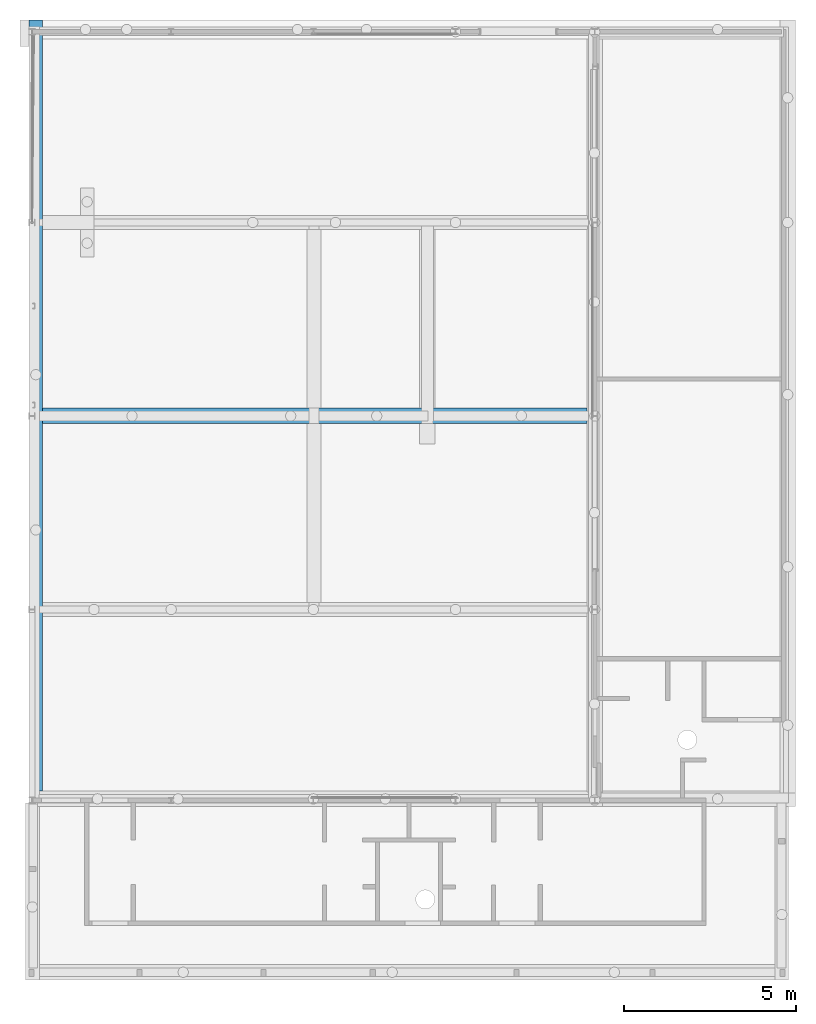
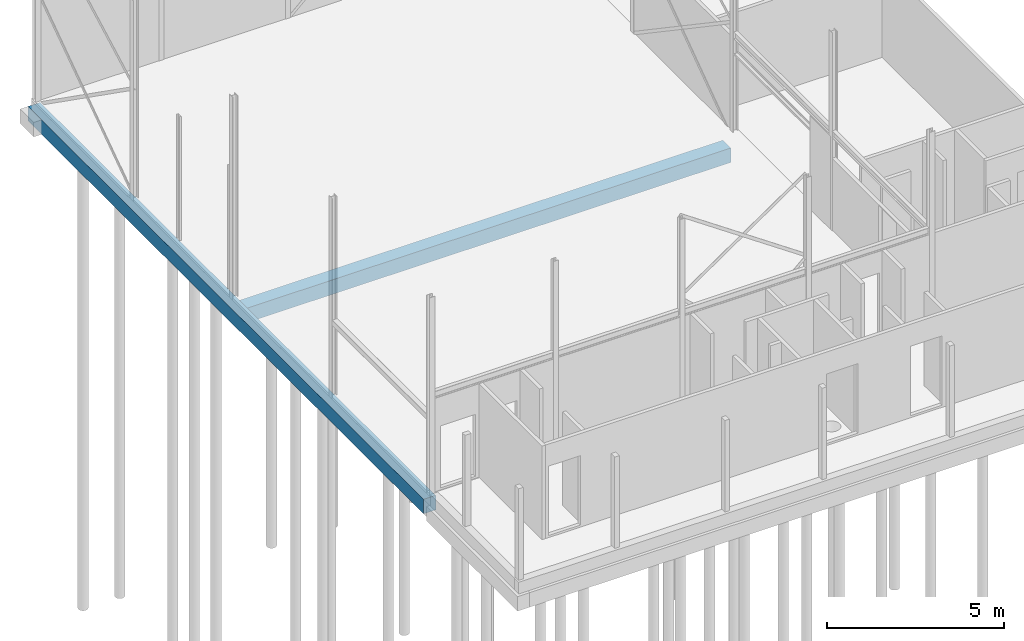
# One storey, part 14 of 17: 2 footings.
"""IFC2X3 building model written with IfcOpenShell, lengths in millimetres."""

from ifc_helpers import new_model, entity, si_unit, converted_unit, derived_unit, direction, frame, origin, place, context, subcontext, project, spatial, faceted_brep, source, transform, mapped, material, type_object, type_shapes, element, save


model = new_model("IFC2X3")

# Units and contexts
model_context = context("Model", 3, precision=0.01, world=origin(), true_north=direction((6.123031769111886e-17, 1.0)))
plan_context = context("Plan", 3, precision=0.01, world=origin(), true_north=direction((6.123031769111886e-17, 1.0)))
body_context = subcontext(model_context, "Body", "Model", "MODEL_VIEW")
ifc_project = project(units=[si_unit("LENGTHUNIT", "METRE", prefix="MILLI"), si_unit("AREAUNIT", "SQUARE_METRE"), si_unit("VOLUMEUNIT", "CUBIC_METRE"), converted_unit("PLANEANGLEUNIT", "DEGREE", entity("IfcPlaneAngleMeasure", 0.017453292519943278), si_unit("PLANEANGLEUNIT", "RADIAN"), dimensions=[0, 0, 0, 0, 0, 0, 0]), si_unit("MASSUNIT", "GRAM", prefix="KILO"), derived_unit("MASSDENSITYUNIT", [(si_unit("MASSUNIT", "GRAM", prefix="KILO"), 1), (si_unit("LENGTHUNIT", "METRE"), -3)]), derived_unit("IONCONCENTRATIONUNIT", [(si_unit("MASSUNIT", "GRAM", prefix="KILO"), 1), (si_unit("LENGTHUNIT", "METRE"), -3)]), derived_unit("MOMENTOFINERTIAUNIT", [(si_unit("LENGTHUNIT", "METRE"), 4)]), si_unit("TIMEUNIT", "SECOND"), si_unit("FREQUENCYUNIT", "HERTZ"), si_unit("THERMODYNAMICTEMPERATUREUNIT", "DEGREE_CELSIUS"), derived_unit("THERMALTRANSMITTANCEUNIT", [(si_unit("MASSUNIT", "GRAM", prefix="KILO"), 1), (si_unit("THERMODYNAMICTEMPERATUREUNIT", "KELVIN"), -1), (si_unit("TIMEUNIT", "SECOND"), -3)]), derived_unit("THERMALCONDUCTANCEUNIT", [(si_unit("MASSUNIT", "GRAM", prefix="KILO"), 1), (si_unit("THERMODYNAMICTEMPERATUREUNIT", "KELVIN"), -1), (si_unit("TIMEUNIT", "SECOND"), -3), (si_unit("LENGTHUNIT", "METRE"), 1)]), derived_unit("VOLUMETRICFLOWRATEUNIT", [(si_unit("LENGTHUNIT", "METRE", prefix="DECI"), 3), (si_unit("TIMEUNIT", "SECOND"), -1)]), derived_unit("MASSFLOWRATEUNIT", [(si_unit("MASSUNIT", "GRAM", prefix="KILO"), 1), (si_unit("TIMEUNIT", "SECOND"), -1)]), derived_unit("ROTATIONALFREQUENCYUNIT", [(si_unit("TIMEUNIT", "SECOND"), -1)]), si_unit("ELECTRICCURRENTUNIT", "AMPERE"), si_unit("ELECTRICVOLTAGEUNIT", "VOLT"), si_unit("POWERUNIT", "WATT"), si_unit("FORCEUNIT", "NEWTON", prefix="KILO"), si_unit("ILLUMINANCEUNIT", "LUX"), si_unit("LUMINOUSFLUXUNIT", "LUMEN"), si_unit("LUMINOUSINTENSITYUNIT", "CANDELA"), si_unit("ENERGYUNIT", "JOULE"), derived_unit("USERDEFINED", [(si_unit("MASSUNIT", "GRAM", prefix="KILO"), -1), (si_unit("LENGTHUNIT", "METRE"), -2), (si_unit("TIMEUNIT", "SECOND"), 3), (si_unit("LUMINOUSFLUXUNIT", "LUMEN"), 1)]), derived_unit("USERDEFINED", [(si_unit("MASSUNIT", "GRAM", prefix="KILO"), 1), (si_unit("TIMEUNIT", "SECOND"), -3), (si_unit("LENGTHUNIT", "METRE"), 3), (si_unit("ELECTRICCURRENTUNIT", "AMPERE"), -2)]), derived_unit("SOUNDPOWERUNIT", [(si_unit("MASSUNIT", "GRAM", prefix="KILO"), 1), (si_unit("TIMEUNIT", "SECOND"), -3), (si_unit("LENGTHUNIT", "METRE"), 2)]), derived_unit("SOUNDPRESSUREUNIT", [(si_unit("MASSUNIT", "GRAM", prefix="KILO"), 1), (si_unit("LENGTHUNIT", "METRE"), -1), (si_unit("TIMEUNIT", "SECOND"), -2)]), derived_unit("LINEARVELOCITYUNIT", [(si_unit("LENGTHUNIT", "METRE"), 1), (si_unit("TIMEUNIT", "SECOND"), -1)]), si_unit("PRESSUREUNIT", "PASCAL"), derived_unit("USERDEFINED", [(si_unit("MASSUNIT", "GRAM", prefix="KILO"), 1), (si_unit("LENGTHUNIT", "METRE"), -2), (si_unit("TIMEUNIT", "SECOND"), -2)]), derived_unit("LINEARFORCEUNIT", [(si_unit("MASSUNIT", "GRAM", prefix="KILO"), 1), (si_unit("TIMEUNIT", "SECOND"), -2)]), derived_unit("PLANARFORCEUNIT", [(si_unit("MASSUNIT", "GRAM", prefix="KILO"), 1), (si_unit("LENGTHUNIT", "METRE"), -1), (si_unit("TIMEUNIT", "SECOND"), -2)]), derived_unit("SPECIFICHEATCAPACITYUNIT", [(si_unit("THERMODYNAMICTEMPERATUREUNIT", "KELVIN"), -1), (si_unit("LENGTHUNIT", "METRE"), 2), (si_unit("TIMEUNIT", "SECOND"), -2)]), derived_unit("HEATFLUXDENSITYUNIT", [(si_unit("MASSUNIT", "GRAM", prefix="KILO"), 1), (si_unit("TIMEUNIT", "SECOND"), -3)]), derived_unit("HEATINGVALUEUNIT", [(si_unit("LENGTHUNIT", "METRE"), 2), (si_unit("TIMEUNIT", "SECOND"), -2)]), derived_unit("VAPORPERMEABILITYUNIT", [(si_unit("LENGTHUNIT", "METRE"), -1), (si_unit("TIMEUNIT", "SECOND"), 1)]), derived_unit("DYNAMICVISCOSITYUNIT", [(si_unit("MASSUNIT", "GRAM", prefix="KILO"), 1), (si_unit("TIMEUNIT", "SECOND"), -1), (si_unit("LENGTHUNIT", "METRE"), -1)]), derived_unit("THERMALEXPANSIONCOEFFICIENTUNIT", [(si_unit("THERMODYNAMICTEMPERATUREUNIT", "KELVIN"), -1)]), derived_unit("MODULUSOFELASTICITYUNIT", [(si_unit("MASSUNIT", "GRAM", prefix="KILO"), 1), (si_unit("LENGTHUNIT", "METRE"), -1), (si_unit("TIMEUNIT", "SECOND"), -2)]), derived_unit("ISOTHERMALMOISTURECAPACITYUNIT", [(si_unit("MASSUNIT", "GRAM", prefix="KILO"), -1), (si_unit("LENGTHUNIT", "METRE"), 3)]), derived_unit("MOISTUREDIFFUSIVITYUNIT", [(si_unit("TIMEUNIT", "SECOND"), -1), (si_unit("LENGTHUNIT", "METRE"), 2)]), derived_unit("MASSPERLENGTHUNIT", [(si_unit("MASSUNIT", "GRAM", prefix="KILO"), 1), (si_unit("LENGTHUNIT", "METRE"), -1)]), derived_unit("THERMALRESISTANCEUNIT", [(si_unit("MASSUNIT", "GRAM", prefix="KILO"), -1), (si_unit("TIMEUNIT", "SECOND"), 3), (si_unit("THERMODYNAMICTEMPERATUREUNIT", "KELVIN"), 1)]), derived_unit("ACCELERATIONUNIT", [(si_unit("LENGTHUNIT", "METRE"), 1), (si_unit("TIMEUNIT", "SECOND"), -2)]), derived_unit("ANGULARVELOCITYUNIT", [(si_unit("TIMEUNIT", "SECOND"), -1), (si_unit("PLANEANGLEUNIT", "RADIAN"), 1)]), derived_unit("LINEARSTIFFNESSUNIT", [(si_unit("MASSUNIT", "GRAM", prefix="KILO"), 1), (si_unit("TIMEUNIT", "SECOND"), -2)]), derived_unit("WARPINGCONSTANTUNIT", [(si_unit("LENGTHUNIT", "METRE"), 6)]), derived_unit("LINEARMOMENTUNIT", [(si_unit("MASSUNIT", "GRAM", prefix="KILO"), 1), (si_unit("LENGTHUNIT", "METRE"), 1), (si_unit("TIMEUNIT", "SECOND"), -2)]), derived_unit("TORQUEUNIT", [(si_unit("MASSUNIT", "GRAM", prefix="KILO"), 1), (si_unit("LENGTHUNIT", "METRE"), 2), (si_unit("TIMEUNIT", "SECOND"), -2)])], contexts=[model_context, plan_context])

# Site, building, storey
site_placement = place(None, origin())
site = spatial("IfcSite", under=ifc_project, at=site_placement, Name="Default", CompositionType="ELEMENT")
building_placement = place(site_placement, origin())
building = spatial("IfcBuilding", under=site, at=building_placement, CompositionType="ELEMENT")
storey_placement = place(building_placement, origin())
storey = spatial("IfcBuildingStorey", under=building, at=storey_placement, Name="00 begane grond", CompositionType="ELEMENT", Elevation=0.0)

# Footings
ifc_material = material(Name="ihwg beton")
type_product_1 = type_object("IfcTypeProduct", Name="16_SF_LIB_funderingsbalk_dw:400x500 (ihwg)", material=ifc_material)
shared_shape_1 = source(origin(), body_context, "Body", "Brep", [
    faceted_brep([(400.0, 0.0, 0.0), (0.0, 0.0, 0.0), (0.0, 0.0, -500.0), (400.0, 0.0, -500.0), (0.0, 22395.0, -500.0), (0.0, 22395.0, 0.0), (400.0, 22395.0, 0.0), (400.0, 22395.0, -500.0), (0.0, 21625.00004426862, 0.0), (400.0, 5075.0, 0.0), (400.0, 5475.0, 0.0), (400.0, 10670.0, 0.0), (400.0, 11120.0, 0.0), (400.0, 16315.0, 0.0), (400.0, 16715.0, 0.0), (400.0, 21845.0, 0.0), (0.0, 22199.499832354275, 0.0), (400.0, 5075.0, -500.0), (400.0, 5475.0, -500.0), (400.0, 10670.0, -500.0), (400.0, 11120.0, -500.0), (400.0, 16315.0, -500.0), (400.0, 16715.0, -500.0), (400.0, 21845.0, -500.0), (329.9038105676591, 7510.0, -500.0), (344.88887394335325, 7546.177143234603, -500.0), (350.0, 7585.0, -500.0), (306.0660171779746, 7478.933982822, -500.0), (275.0, 7455.096189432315, -500.0), (238.8228567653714, 7440.111126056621, -500.0), (200.0, 7435.0, -500.0), (161.17714323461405, 7440.111126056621, -500.0), (125.0, 7455.096189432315, -500.0), (93.93398282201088, 7478.933982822, -500.0), (70.09618943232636, 7510.0, -500.0), (55.1111260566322, 7546.177143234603, -500.0), (50.0, 7585.0, -500.0), (50.0, 12095.0, -500.0), (0.0, 21625.00004426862, -500.0), (55.11112605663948, 12133.82285676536, -500.0), (70.09618943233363, 12170.0, -500.0), (93.93398282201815, 12201.066017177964, -500.0), (125.0, 12224.903810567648, -500.0), (161.17714323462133, 12239.888873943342, -500.0), (200.0, 12245.0, -500.0), (238.82285676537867, 12239.888873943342, -500.0), (275.0, 12224.903810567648, -500.0), (306.06601717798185, 12201.066017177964, -500.0), (329.90381056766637, 12170.0, -500.0), (344.8888739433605, 12133.82285676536, -500.0), (350.0, 12095.0, -500.0), (70.09618943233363, 12020.0, -500.0), (344.8888739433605, 12056.177143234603, -500.0), (329.90381056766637, 12020.0, -500.0), (306.06601717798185, 11988.933982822, -500.0), (275.0, 11965.096189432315, -500.0), (238.82285676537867, 11950.111126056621, -500.0), (200.0, 11945.0, -500.0), (161.17714323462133, 11950.111126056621, -500.0), (125.0, 11965.096189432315, -500.0), (93.93398282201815, 11988.933982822, -500.0), (55.1111260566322, 7623.8228567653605, -500.0), (55.11112605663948, 12056.177143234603, -500.0), (344.88887394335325, 7623.8228567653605, -500.0), (329.9038105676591, 7660.0, -500.0), (306.0660171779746, 7691.066017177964, -500.0), (275.0, 7714.9038105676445, -500.0), (238.8228567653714, 7729.888873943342, -500.0), (200.0, 7735.0, -500.0), (161.17714323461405, 7729.888873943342, -500.0), (125.0, 7714.9038105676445, -500.0), (93.93398282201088, 7691.066017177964, -500.0), (70.09618943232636, 7660.0, -500.0), (275.0, 11965.096189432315, -480.0), (238.82285676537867, 11950.111126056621, -480.0), (200.0, 11945.0, -480.0), (161.17714323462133, 11950.111126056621, -480.0), (125.0, 11965.096189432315, -480.0), (93.93398282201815, 11988.933982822, -480.0), (70.09618943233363, 12020.0, -480.0), (55.11112605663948, 12056.177143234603, -480.0), (50.0, 12095.0, -480.0), (55.11112605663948, 12133.82285676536, -480.0), (70.09618943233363, 12170.0, -480.0), (93.93398282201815, 12201.066017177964, -480.0), (125.0, 12224.903810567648, -480.0), (161.17714323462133, 12239.888873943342, -480.0), (200.0, 12245.0, -480.0), (238.82285676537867, 12239.888873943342, -480.0), (275.0, 12224.903810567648, -480.0), (306.06601717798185, 12201.066017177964, -480.0), (329.90381056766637, 12170.0, -480.0), (344.8888739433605, 12133.82285676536, -480.0), (350.0, 12095.0, -480.0), (344.8888739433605, 12056.177143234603, -480.0), (329.90381056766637, 12020.0, -480.0), (306.06601717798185, 11988.933982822, -480.0), (275.0, 7455.096189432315, -480.0), (238.8228567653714, 7440.111126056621, -480.0), (200.0, 7435.0, -480.0), (161.17714323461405, 7440.111126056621, -480.0), (125.0, 7455.096189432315, -480.0), (93.93398282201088, 7478.933982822, -480.0), (70.09618943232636, 7510.0, -480.0), (55.1111260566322, 7546.177143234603, -480.0), (50.0, 7585.0, -480.0), (55.1111260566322, 7623.8228567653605, -480.0), (70.09618943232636, 7660.0, -480.0), (93.93398282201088, 7691.066017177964, -480.0), (125.0, 7714.9038105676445, -480.0), (161.17714323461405, 7729.888873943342, -480.0), (200.0, 7735.0, -480.0), (238.8228567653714, 7729.888873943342, -480.0), (275.0, 7714.9038105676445, -480.0), (306.0660171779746, 7691.066017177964, -480.0), (329.9038105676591, 7660.0, -480.0), (344.88887394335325, 7623.8228567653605, -480.0), (350.0, 7585.0, -480.0), (344.88887394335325, 7546.177143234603, -480.0), (329.9038105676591, 7510.0, -480.0), (306.0660171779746, 7478.933982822, -480.0)], [[[0, 1, 2, 3]], [[4, 5, 6, 7]], [[8, 1, 0, 9, 10, 11, 12, 13, 14, 15, 6, 5, 16]], [[10, 9, 0, 3, 17, 18, 19, 20, 21, 22, 23, 7, 6, 15, 14, 13, 12, 11]], [[18, 24, 25]], [[26, 18, 25]], [[26, 19, 18]], [[27, 24, 18]], [[27, 18, 28]], [[29, 28, 18]], [[18, 30, 29]], [[30, 18, 31]], [[31, 18, 32]], [[32, 18, 33]], [[33, 18, 34]], [[35, 34, 18]], [[35, 18, 17]], [[2, 35, 17]], [[17, 3, 2]], [[35, 2, 36]], [[2, 37, 36]], [[37, 2, 38]], [[39, 37, 38]], [[39, 38, 22]], [[38, 23, 22]], [[23, 38, 4]], [[4, 7, 23]], [[39, 22, 21]], [[39, 21, 40]], [[41, 40, 21]], [[41, 21, 42]], [[42, 21, 43]], [[43, 21, 44]], [[21, 45, 44]], [[46, 45, 21]], [[47, 46, 21]], [[48, 47, 21]], [[49, 48, 21]], [[50, 49, 21]], [[20, 50, 21]], [[51, 20, 19]], [[52, 50, 20]], [[53, 52, 20]], [[53, 20, 54]], [[55, 54, 20]], [[55, 20, 56]], [[20, 57, 56]], [[20, 58, 57]], [[58, 20, 59]], [[20, 60, 59]], [[20, 51, 60]], [[37, 61, 36]], [[62, 61, 37]], [[61, 62, 19]], [[51, 19, 62]], [[19, 26, 63]], [[19, 63, 64]], [[64, 65, 19]], [[65, 66, 19]], [[66, 67, 19]], [[68, 19, 67]], [[19, 68, 69]], [[70, 19, 69]], [[70, 71, 19]], [[72, 19, 71]], [[61, 19, 72]], [[38, 2, 1, 8, 16, 5, 4]], [[73, 74, 75, 76, 77, 78, 79, 80, 81, 82, 83, 84, 85, 86, 87, 88, 89, 90, 91, 92, 93, 94, 95, 96]], [[97, 98, 99, 100, 101, 102, 103, 104, 105, 106, 107, 108, 109, 110, 111, 112, 113, 114, 115, 116, 117, 118, 119, 120]], [[37, 81, 80, 62]], [[62, 80, 79, 51]], [[59, 60, 78, 77]], [[60, 51, 79, 78]], [[76, 58, 59, 77]], [[58, 76, 75, 57]], [[55, 56, 74, 73]], [[55, 73, 96, 54]], [[52, 53, 95, 94]], [[95, 53, 54, 96]], [[93, 50, 52, 94]], [[57, 75, 74, 56]], [[50, 93, 92, 49]], [[49, 92, 91, 48]], [[46, 47, 90, 89]], [[48, 91, 90, 47]], [[46, 89, 88, 45]], [[45, 88, 87, 44]], [[43, 44, 87, 86]], [[43, 86, 85, 42]], [[40, 41, 84, 83]], [[42, 85, 84, 41]], [[40, 83, 82, 39]], [[37, 39, 82, 81]], [[36, 105, 104, 35]], [[35, 104, 103, 34]], [[32, 33, 102, 101]], [[33, 34, 103, 102]], [[100, 31, 32, 101]], [[31, 100, 99, 30]], [[28, 29, 98, 97]], [[28, 97, 120, 27]], [[25, 24, 119, 118]], [[119, 24, 27, 120]], [[117, 26, 25, 118]], [[30, 99, 98, 29]], [[26, 117, 116, 63]], [[63, 116, 115, 64]], [[66, 65, 114, 113]], [[64, 115, 114, 65]], [[66, 113, 112, 67]], [[67, 112, 111, 68]], [[69, 68, 111, 110]], [[69, 110, 109, 70]], [[72, 71, 108, 107]], [[70, 109, 108, 71]], [[72, 107, 106, 61]], [[36, 61, 106, 105]]]),
])
type_shapes(type_product_1, [shared_shape_1])
footing_1_placement = place(storey_placement, frame((34066.192937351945, 16597.670340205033, -470.0)))
element("IfcFooting", 1, at=footing_1_placement, inside=storey, type_object=type_product_1, material=ifc_material, Name="16_SF_LIB_funderingsbalk_dw:400x500 (ihwg)", ObjectType="16_SF_LIB_funderingsbalk_dw:400x500 (ihwg)", context=body_context, shape_type="MappedRepresentation", body=[
    mapped(shared_shape_1, transform((0.0, 0.0, 0.0), scale=1.0)),
])
type_product_2 = type_object("IfcTypeProduct", Name="16_SF_LIB_funderingsbalk_dw:450x500 (ihwg)", material=ifc_material)
shared_shape_2 = source(origin(), body_context, "Body", "Brep", [
    faceted_brep([(0.0, 0.0, -500.0), (0.0, 0.0, 0.0), (0.0, 450.0, 0.0), (0.0, 450.0, -500.0), (8078.9556643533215, 0.0, 0.0), (10940.466666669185, 0.0, 0.0), (11390.466666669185, 0.0, 0.0), (15800.0, 0.0, 0.0), (15800.0, 450.0, 0.0), (11395.466666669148, 450.0, 0.0), (10945.466666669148, 450.0, 0.0), (8078.9556643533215, 450.0, 0.0), (7678.955664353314, 450.0, 0.0), (7678.955664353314, 0.0, 0.0), (15800.0, 450.0, -500.0), (11395.466666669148, 450.0, -500.0), (10945.466666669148, 450.0, -500.0), (8078.9556643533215, 450.0, -500.0), (7678.955664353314, 450.0, -500.0), (2590.0, 375.0, -500.0), (2551.1771432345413, 369.8888739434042, -500.0), (2628.8228567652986, 369.8888739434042, -500.0), (2515.0, 354.9038105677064, -500.0), (2483.933982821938, 331.0660171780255, -500.0), (2460.0961894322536, 300.0, -500.0), (2445.1111260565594, 263.82285676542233, -500.0), (2440.0, 225.0, -500.0), (2445.1111260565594, 186.17714323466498, -500.0), (2460.0961894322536, 150.0, -500.0), (2483.933982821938, 118.93398282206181, -500.0), (2515.0, 95.09618943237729, -500.0), (2551.1771432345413, 80.11112605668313, -500.0), (2590.0, 75.0, -500.0), (7678.955664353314, 0.0, -500.0), (2628.8228567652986, 80.11112605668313, -500.0), (7161.177143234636, 80.11112605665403, -500.0), (7125.0, 95.09618943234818, -500.0), (2665.0, 95.09618943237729, -500.0), (7093.933982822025, 118.9339828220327, -500.0), (2696.066017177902, 118.93398282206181, -500.0), (7070.096189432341, 150.0, -500.0), (2719.9038105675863, 150.0, -500.0), (7055.111126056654, 186.17714323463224, -500.0), (2734.8888739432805, 186.17714323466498, -500.0), (7050.0, 225.0, -500.0), (2740.0, 225.0, -500.0), (2734.8888739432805, 263.82285676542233, -500.0), (7055.111126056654, 263.8228567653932, -500.0), (2719.9038105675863, 300.0, -500.0), (7070.096189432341, 300.0, -500.0), (2696.066017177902, 331.0660171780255, -500.0), (7093.933982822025, 331.0660171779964, -500.0), (2665.0, 354.9038105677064, -500.0), (7125.0, 354.9038105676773, -500.0), (7161.177143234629, 369.8888739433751, -500.0), (7200.0, 375.0, -500.0), (7238.822856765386, 369.8888739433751, -500.0), (7275.0, 354.9038105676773, -500.0), (7306.066017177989, 331.0660171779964, -500.0), (7329.903810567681, 300.0, -500.0), (7344.888873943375, 263.8228567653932, -500.0), (7350.0, 225.0, -500.0), (7344.888873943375, 186.17714323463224, -500.0), (7329.903810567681, 150.0, -500.0), (7306.066017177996, 118.9339828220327, -500.0), (7200.0, 75.0, -500.0), (7238.822856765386, 80.11112605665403, -500.0), (7275.0, 95.09618943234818, -500.0), (8078.9556643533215, 0.0, -500.0), (9550.0, 225.0, -500.0), (9555.111126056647, 263.8228567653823, -500.0), (9570.09618943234, 300.0, -500.0), (9593.933982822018, 331.0660171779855, -500.0), (9625.0, 354.90381056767, -500.0), (9661.177143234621, 369.88887394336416, -500.0), (9700.0, 375.0, -500.0), (9738.822856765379, 369.88887394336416, -500.0), (9775.0, 354.90381056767, -500.0), (9806.066017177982, 331.0660171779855, -500.0), (9829.903810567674, 300.0, -500.0), (9844.888873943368, 263.8228567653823, -500.0), (9850.0, 225.0, -500.0), (10940.466666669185, 0.0, -500.0), (11390.466666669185, 0.0, -500.0), (13750.0, 235.0, -500.0), (13755.111126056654, 273.8228567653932, -500.0), (13770.096189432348, 310.0, -500.0), (13793.933982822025, 341.0660171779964, -500.0), (13825.0, 364.9038105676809, -500.0), (13861.177143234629, 379.8888739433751, -500.0), (13900.0, 385.0, -500.0), (13938.822856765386, 379.8888739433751, -500.0), (13975.0, 364.9038105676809, -500.0), (14006.06601717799, 341.0660171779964, -500.0), (14029.903810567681, 310.0, -500.0), (14044.888873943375, 273.8228567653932, -500.0), (14050.0, 235.0, -500.0), (15800.0, 0.0, -500.0), (13900.0, 85.0, -500.0), (13938.822856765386, 90.11112605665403, -500.0), (13975.0, 105.09618943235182, -500.0), (14006.066017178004, 128.9339828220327, -500.0), (14029.903810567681, 160.0, -500.0), (14044.888873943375, 196.17714323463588, -500.0), (13755.111126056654, 196.17714323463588, -500.0), (13770.096189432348, 160.0, -500.0), (13793.933982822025, 128.9339828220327, -500.0), (13825.0, 105.09618943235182, -500.0), (13861.177143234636, 90.11112605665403, -500.0), (9844.888873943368, 186.17714323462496, -500.0), (9829.903810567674, 150.0, -500.0), (9700.0, 75.0, -500.0), (9738.822856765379, 80.11112605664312, -500.0), (9775.0, 95.0961894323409, -500.0), (9806.066017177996, 118.93398282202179, -500.0), (9555.111126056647, 186.17714323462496, -500.0), (9570.09618943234, 150.0, -500.0), (9593.933982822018, 118.93398282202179, -500.0), (9625.0, 95.0961894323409, -500.0), (9661.177143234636, 80.11112605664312, -500.0), (7275.0, 95.09618943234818, -480.0), (7238.822856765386, 80.11112605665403, -480.0), (7200.0, 75.0, -480.0), (7161.177143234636, 80.11112605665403, -480.0), (7125.0, 95.09618943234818, -480.0), (7093.933982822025, 118.9339828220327, -480.0), (7070.096189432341, 150.0, -480.0), (7055.111126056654, 186.17714323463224, -480.0), (7050.0, 225.0, -480.0), (7055.111126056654, 263.8228567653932, -480.0), (7070.096189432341, 300.0, -480.0), (7093.933982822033, 331.0660171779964, -480.0), (7125.0, 354.9038105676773, -480.0), (7161.177143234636, 369.8888739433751, -480.0), (7200.0, 375.0, -480.0), (7238.822856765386, 369.8888739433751, -480.0), (7275.0, 354.9038105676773, -480.0), (7306.066017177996, 331.0660171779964, -480.0), (7329.903810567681, 300.0, -480.0), (7344.888873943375, 263.8228567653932, -480.0), (7350.0, 225.0, -480.0), (7344.888873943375, 186.17714323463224, -480.0), (7329.903810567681, 150.0, -480.0), (7306.066017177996, 118.9339828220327, -480.0), (13975.0, 105.09618943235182, -480.0), (13938.822856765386, 90.11112605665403, -480.0), (13900.0, 85.0, -480.0), (13861.177143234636, 90.11112605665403, -480.0), (13825.0, 105.09618943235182, -480.0), (13793.933982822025, 128.9339828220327, -480.0), (13770.096189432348, 160.0, -480.0), (13755.111126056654, 196.17714323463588, -480.0), (13750.0, 235.0, -480.0), (13755.111126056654, 273.8228567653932, -480.0), (13770.096189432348, 310.0, -480.0), (13793.93398282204, 341.0660171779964, -480.0), (13825.0, 364.9038105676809, -480.0), (13861.177143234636, 379.8888739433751, -480.0), (13900.0, 385.0, -480.0), (13938.822856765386, 379.8888739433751, -480.0), (13975.0, 364.9038105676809, -480.0), (14006.066017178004, 341.0660171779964, -480.0), (14029.903810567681, 310.0, -480.0), (14044.888873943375, 273.8228567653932, -480.0), (14050.0, 235.0, -480.0), (14044.888873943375, 196.17714323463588, -480.0), (14029.903810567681, 160.0, -480.0), (14006.066017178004, 128.9339828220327, -480.0), (2665.0, 95.09618943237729, -480.0), (2628.8228567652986, 80.11112605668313, -480.0), (2590.0, 75.0, -480.0), (2551.1771432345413, 80.11112605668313, -480.0), (2515.0, 95.09618943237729, -480.0), (2483.933982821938, 118.93398282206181, -480.0), (2460.0961894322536, 150.0, -480.0), (2445.1111260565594, 186.17714323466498, -480.0), (2440.0, 225.0, -480.0), (2445.1111260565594, 263.82285676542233, -480.0), (2460.0961894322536, 300.0, -480.0), (2483.933982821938, 331.0660171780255, -480.0), (2515.0, 354.9038105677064, -480.0), (2551.1771432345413, 369.8888739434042, -480.0), (2590.0, 375.0, -480.0), (2628.8228567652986, 369.8888739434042, -480.0), (2665.0, 354.9038105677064, -480.0), (2696.066017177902, 331.0660171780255, -480.0), (2719.9038105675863, 300.0, -480.0), (2734.8888739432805, 263.82285676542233, -480.0), (2740.0, 225.0, -480.0), (2734.8888739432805, 186.17714323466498, -480.0), (2719.9038105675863, 150.0, -480.0), (2696.066017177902, 118.93398282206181, -480.0), (9775.0, 95.0961894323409, -480.0), (9738.822856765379, 80.11112605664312, -480.0), (9700.0, 75.0, -480.0), (9661.177143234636, 80.11112605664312, -480.0), (9625.0, 95.0961894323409, -480.0), (9593.933982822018, 118.93398282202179, -480.0), (9570.09618943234, 150.0, -480.0), (9555.111126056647, 186.17714323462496, -480.0), (9550.0, 225.0, -480.0), (9555.111126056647, 263.8228567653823, -480.0), (9570.09618943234, 300.0, -480.0), (9593.933982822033, 331.0660171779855, -480.0), (9625.0, 354.90381056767, -480.0), (9661.177143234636, 369.88887394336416, -480.0), (9700.0, 375.0, -480.0), (9738.822856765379, 369.88887394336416, -480.0), (9775.0, 354.90381056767, -480.0), (9806.066017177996, 331.0660171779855, -480.0), (9829.903810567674, 300.0, -480.0), (9844.888873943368, 263.8228567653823, -480.0), (9850.0, 225.0, -480.0), (9844.888873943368, 186.17714323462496, -480.0), (9829.903810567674, 150.0, -480.0), (9806.066017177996, 118.93398282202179, -480.0)], [[[0, 1, 2, 3]], [[4, 5, 6, 7, 8, 9, 10, 11, 12, 2, 1, 13]], [[11, 10, 9, 8, 14, 15, 16, 17, 18, 3, 2, 12]], [[19, 20, 3]], [[18, 19, 3]], [[18, 21, 19]], [[22, 3, 20]], [[22, 23, 3]], [[3, 23, 24]], [[25, 3, 24]], [[25, 26, 3]], [[0, 3, 26]], [[0, 26, 27]], [[28, 0, 27]], [[0, 28, 29]], [[0, 29, 30]], [[30, 31, 0]], [[32, 0, 31]], [[32, 33, 0]], [[33, 32, 34]], [[33, 34, 35]], [[35, 34, 36]], [[36, 34, 37]], [[38, 36, 37]], [[38, 37, 39]], [[40, 38, 39]], [[40, 39, 41]], [[40, 41, 42]], [[42, 41, 43]], [[44, 42, 43]], [[43, 45, 44]], [[46, 44, 45]], [[46, 47, 44]], [[47, 46, 48]], [[47, 48, 49]], [[49, 48, 50]], [[50, 51, 49]], [[52, 51, 50]], [[52, 53, 51]], [[53, 52, 21]], [[21, 54, 53]], [[54, 21, 18]], [[17, 33, 18]], [[54, 18, 55]], [[55, 18, 56]], [[18, 57, 56]], [[57, 18, 58]], [[18, 59, 58]], [[18, 60, 59]], [[18, 61, 60]], [[61, 18, 33]], [[62, 61, 33]], [[33, 63, 62]], [[33, 64, 63]], [[33, 35, 65]], [[65, 66, 33]], [[33, 66, 67]], [[17, 68, 33]], [[67, 64, 33]], [[17, 69, 68]], [[69, 17, 70]], [[17, 71, 70]], [[71, 17, 72]], [[72, 17, 73]], [[17, 74, 73]], [[74, 17, 75]], [[17, 16, 75]], [[76, 75, 16]], [[77, 76, 16]], [[16, 78, 77]], [[79, 78, 16]], [[79, 16, 80]], [[80, 16, 81]], [[16, 82, 81]], [[82, 16, 83]], [[16, 15, 83]], [[83, 15, 84]], [[84, 15, 85]], [[85, 15, 86]], [[87, 86, 15]], [[87, 15, 88]], [[15, 89, 88]], [[89, 15, 90]], [[90, 15, 14]], [[91, 90, 14]], [[14, 92, 91]], [[93, 92, 14]], [[14, 94, 93]], [[14, 95, 94]], [[14, 96, 95]], [[97, 96, 14]], [[97, 83, 98]], [[98, 99, 97]], [[100, 97, 99]], [[101, 97, 100]], [[97, 101, 102]], [[97, 102, 103]], [[96, 97, 103]], [[104, 83, 84]], [[83, 104, 105]], [[106, 83, 105]], [[107, 83, 106]], [[83, 107, 108]], [[83, 108, 98]], [[81, 82, 109]], [[109, 82, 110]], [[82, 68, 111]], [[111, 112, 82]], [[113, 82, 112]], [[82, 113, 114]], [[110, 82, 114]], [[68, 69, 115]], [[116, 68, 115]], [[68, 116, 117]], [[118, 68, 117]], [[119, 68, 118]], [[68, 119, 111]], [[68, 82, 83, 97, 7, 6, 5, 4, 13, 1, 0, 33]], [[8, 7, 97, 14]], [[120, 121, 122, 123, 124, 125, 126, 127, 128, 129, 130, 131, 132, 133, 134, 135, 136, 137, 138, 139, 140, 141, 142, 143]], [[144, 145, 146, 147, 148, 149, 150, 151, 152, 153, 154, 155, 156, 157, 158, 159, 160, 161, 162, 163, 164, 165, 166, 167]], [[168, 169, 170, 171, 172, 173, 174, 175, 176, 177, 178, 179, 180, 181, 182, 183, 184, 185, 186, 187, 188, 189, 190, 191]], [[192, 193, 194, 195, 196, 197, 198, 199, 200, 201, 202, 203, 204, 205, 206, 207, 208, 209, 210, 211, 212, 213, 214, 215]], [[44, 128, 127, 42]], [[42, 127, 126, 40]], [[36, 38, 125, 124]], [[38, 40, 126, 125]], [[123, 35, 36, 124]], [[35, 123, 122, 65]], [[67, 66, 121, 120]], [[67, 120, 143, 64]], [[62, 63, 142, 141]], [[142, 63, 64, 143]], [[140, 61, 62, 141]], [[65, 122, 121, 66]], [[61, 140, 139, 60]], [[60, 139, 138, 59]], [[57, 58, 137, 136]], [[59, 138, 137, 58]], [[57, 136, 135, 56]], [[56, 135, 134, 55]], [[54, 55, 134, 133]], [[54, 133, 132, 53]], [[49, 51, 131, 130]], [[53, 132, 131, 51]], [[49, 130, 129, 47]], [[44, 47, 129, 128]], [[84, 152, 151, 104]], [[104, 151, 150, 105]], [[107, 106, 149, 148]], [[106, 105, 150, 149]], [[147, 108, 107, 148]], [[108, 147, 146, 98]], [[100, 99, 145, 144]], [[100, 144, 167, 101]], [[103, 102, 166, 165]], [[166, 102, 101, 167]], [[164, 96, 103, 165]], [[98, 146, 145, 99]], [[96, 164, 163, 95]], [[95, 163, 162, 94]], [[92, 93, 161, 160]], [[94, 162, 161, 93]], [[92, 160, 159, 91]], [[91, 159, 158, 90]], [[89, 90, 158, 157]], [[89, 157, 156, 88]], [[86, 87, 155, 154]], [[88, 156, 155, 87]], [[86, 154, 153, 85]], [[84, 85, 153, 152]], [[26, 176, 175, 27]], [[27, 175, 174, 28]], [[30, 29, 173, 172]], [[29, 28, 174, 173]], [[171, 31, 30, 172]], [[31, 171, 170, 32]], [[37, 34, 169, 168]], [[37, 168, 191, 39]], [[43, 41, 190, 189]], [[190, 41, 39, 191]], [[188, 45, 43, 189]], [[32, 170, 169, 34]], [[45, 188, 187, 46]], [[46, 187, 186, 48]], [[52, 50, 185, 184]], [[48, 186, 185, 50]], [[52, 184, 183, 21]], [[21, 183, 182, 19]], [[20, 19, 182, 181]], [[20, 181, 180, 22]], [[24, 23, 179, 178]], [[22, 180, 179, 23]], [[24, 178, 177, 25]], [[26, 25, 177, 176]], [[69, 200, 199, 115]], [[115, 199, 198, 116]], [[118, 117, 197, 196]], [[117, 116, 198, 197]], [[195, 119, 118, 196]], [[119, 195, 194, 111]], [[113, 112, 193, 192]], [[113, 192, 215, 114]], [[109, 110, 214, 213]], [[214, 110, 114, 215]], [[212, 81, 109, 213]], [[111, 194, 193, 112]], [[81, 212, 211, 80]], [[80, 211, 210, 79]], [[77, 78, 209, 208]], [[79, 210, 209, 78]], [[77, 208, 207, 76]], [[76, 207, 206, 75]], [[74, 75, 206, 205]], [[74, 205, 204, 73]], [[71, 72, 203, 202]], [[73, 204, 203, 72]], [[71, 202, 201, 70]], [[69, 70, 201, 200]]]),
])
type_shapes(type_product_2, [shared_shape_2])
footing_2_placement = place(storey_placement, frame((34466.192937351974, 27267.670340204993, -470.0)))
element("IfcFooting", 2, at=footing_2_placement, inside=storey, type_object=type_product_2, material=ifc_material, Name="16_SF_LIB_funderingsbalk_dw:450x500 (ihwg)", ObjectType="16_SF_LIB_funderingsbalk_dw:450x500 (ihwg)", context=body_context, shape_type="MappedRepresentation", body=[
    mapped(shared_shape_2, transform((0.0, 0.0, 0.0), scale=1.0)),
])

save(model, "model.ifc")
